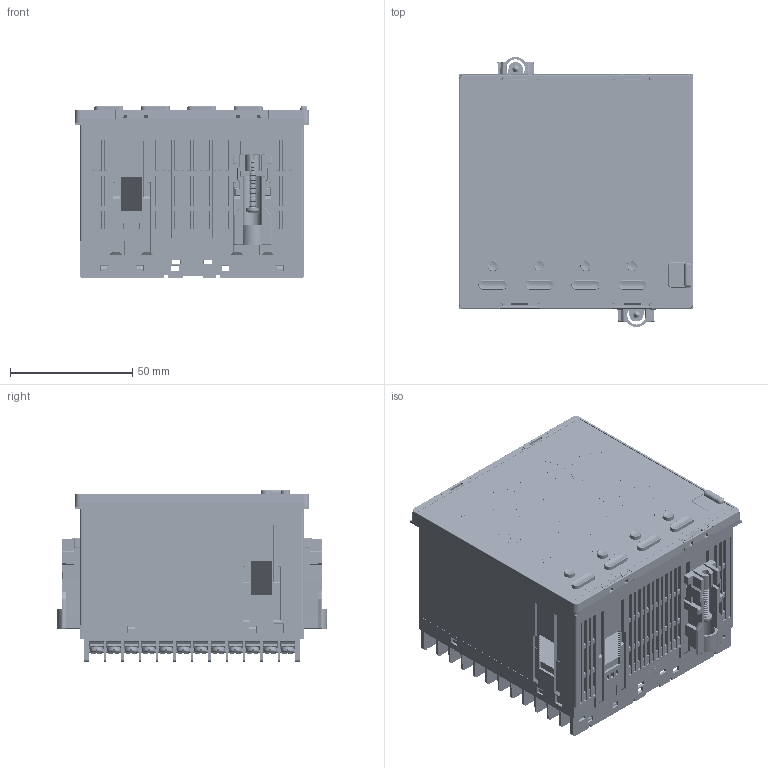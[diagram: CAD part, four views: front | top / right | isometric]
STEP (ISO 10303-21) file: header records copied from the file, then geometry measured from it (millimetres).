
FILE_DESCRIPTION (( 'STEP AP203' ), '1' );
FILE_NAME ('PZ900_WEB.STEP', '2020-06-11T07:34:45', ( '' ), ( '' ), 'SwSTEP 2.0', 'SolidWorks 2018', '' );
FILE_SCHEMA (( 'CONFIG_CONTROL_DESIGN' ));
Products named in the file (1): PZ900_WEB
Bounding box: 96 x 110.45 x 70.6 mm (x, y, z)
Volume: 512171.5 mm3; surface area: 94455.4 mm2
Topology: 7 solids, 7 shells, 15470 faces, 42898 edges, 27973 vertices
Faces by surface type: plane 10797, bspline 2331, cylinder 1862, sphere 196, cone 184, torus 100
Entity records: 552196 total; most frequent: CARTESIAN_POINT 171790, ORIENTED_EDGE 85452, DIRECTION 67889, EDGE_CURVE 42726, VECTOR 33583, LINE 33583, VERTEX_POINT 27973, AXIS2_PLACEMENT_3D 17153
